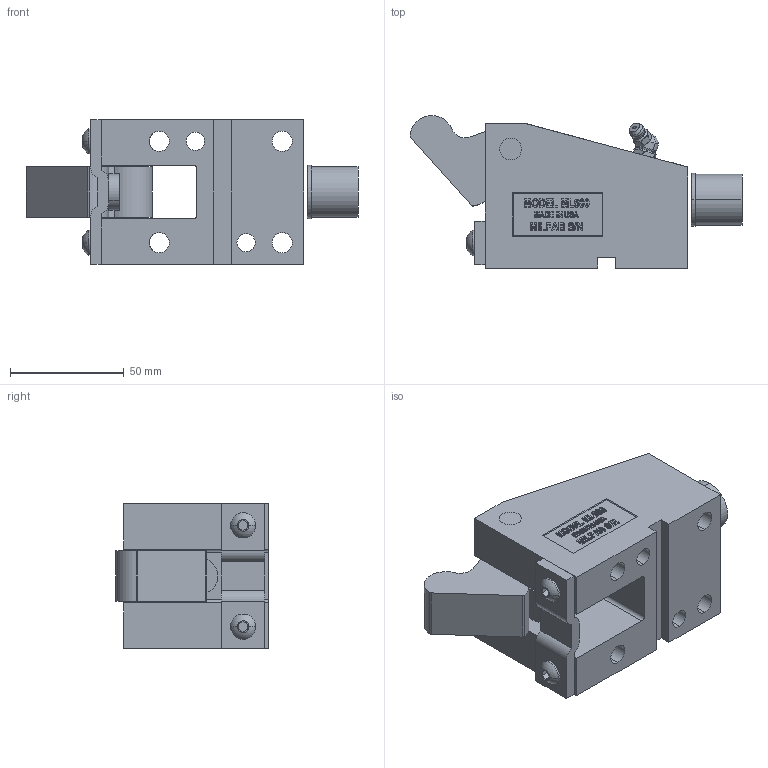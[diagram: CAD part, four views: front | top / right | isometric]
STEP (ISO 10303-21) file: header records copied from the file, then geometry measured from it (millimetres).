
FILE_DESCRIPTION (( 'STEP AP214' ), '1' );
FILE_NAME ('ML50045-O.STEP', '2014-01-07T20:15:54', ( 'user' ), ( '' ), 'SwSTEP 2.0', 'SolidWorks 2009', '' );
FILE_SCHEMA (( 'AUTOMOTIVE_DESIGN' ));
Length unit declared in the file: inch
Products named in the file (1): ML50045-O
Bounding box: 145.67 x 67.08 x 63.5 mm (x, y, z)
Surface area: 56883 mm2 (no closed solid volume)
Topology: 0 solids, 11 shells, 486 faces, 1429 edges, 955 vertices
Faces by surface type: plane 291, bspline 84, cylinder 77, torus 16, cone 14, sphere 4
Entity records: 27589 total; most frequent: CARTESIAN_POINT 9034, ORIENTED_EDGE 2602, DIRECTION 2165, EDGE_CURVE 1427, VERTEX_POINT 955, LINE 951, VECTOR 951, AXIS2_PLACEMENT_3D 607
